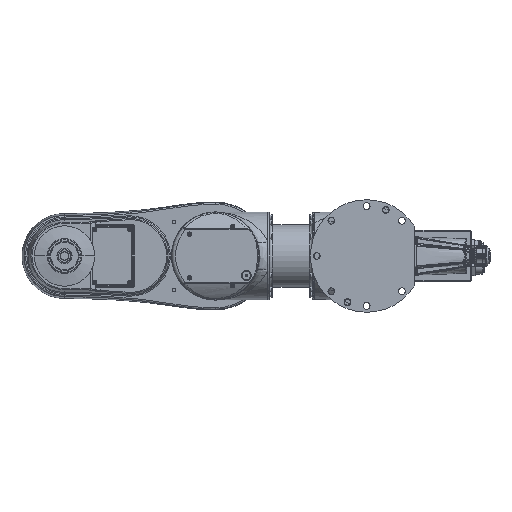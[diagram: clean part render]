
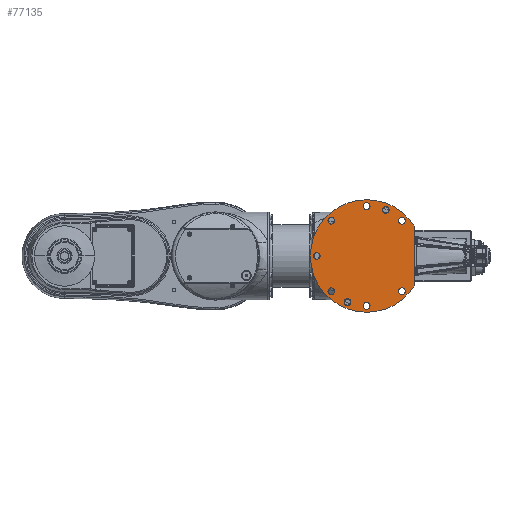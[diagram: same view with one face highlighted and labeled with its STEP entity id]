
A CAD part, front view. The second image highlights one B-rep face of the part: STEP entity #77135.
In plain terms, the highlighted planar face has unit normal (0, -1, 0).
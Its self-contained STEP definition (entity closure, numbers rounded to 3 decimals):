
#29945=DIRECTION('',(0.,0.,-1.));
#29946=VECTOR('',#29945,76.269);
#29947=CARTESIAN_POINT('',(64.,-57.5,38.135));
#29948=LINE('',#29947,#29946);
#29949=CARTESIAN_POINT('',(0.,-57.5,0.));
#29950=DIRECTION('',(0.,1.,0.));
#29951=DIRECTION('',(0.859,0.,-0.512));
#29952=AXIS2_PLACEMENT_3D('',#29949,#29950,#29951);
#29954=CARTESIAN_POINT('',(0.,-57.5,0.));
#29955=DIRECTION('',(0.,1.,0.));
#29956=DIRECTION('',(-1.,0.,0.));
#29957=AXIS2_PLACEMENT_3D('',#29954,#29955,#29956);
#29959=CARTESIAN_POINT('',(-25.257,-57.5,-60.976));
#29960=DIRECTION('',(0.,-1.,0.));
#29961=DIRECTION('',(-1.,0.,0.));
#29962=AXIS2_PLACEMENT_3D('',#29959,#29960,#29961);
#29964=CARTESIAN_POINT('',(-25.257,-57.5,-60.976));
#29965=DIRECTION('',(0.,-1.,0.));
#29966=DIRECTION('',(1.,0.,0.));
#29967=AXIS2_PLACEMENT_3D('',#29964,#29965,#29966);
#29969=CARTESIAN_POINT('',(25.257,-57.5,60.976));
#29970=DIRECTION('',(0.,-1.,0.));
#29971=DIRECTION('',(-1.,0.,0.));
#29972=AXIS2_PLACEMENT_3D('',#29969,#29970,#29971);
#29974=CARTESIAN_POINT('',(25.257,-57.5,60.976));
#29975=DIRECTION('',(0.,-1.,0.));
#29976=DIRECTION('',(1.,0.,0.));
#29977=AXIS2_PLACEMENT_3D('',#29974,#29975,#29976);
#29979=CARTESIAN_POINT('',(0.,-57.5,66.));
#29980=DIRECTION('',(0.,-1.,0.));
#29981=DIRECTION('',(1.,0.,0.));
#29982=AXIS2_PLACEMENT_3D('',#29979,#29980,#29981);
#29984=CARTESIAN_POINT('',(0.,-57.5,66.));
#29985=DIRECTION('',(0.,-1.,0.));
#29986=DIRECTION('',(-1.,0.,0.));
#29987=AXIS2_PLACEMENT_3D('',#29984,#29985,#29986);
#29989=CARTESIAN_POINT('',(-46.669,-57.5,46.669));
#29990=DIRECTION('',(0.,-1.,0.));
#29991=DIRECTION('',(1.,0.,0.));
#29992=AXIS2_PLACEMENT_3D('',#29989,#29990,#29991);
#29994=CARTESIAN_POINT('',(-46.669,-57.5,46.669));
#29995=DIRECTION('',(0.,-1.,0.));
#29996=DIRECTION('',(-1.,0.,0.));
#29997=AXIS2_PLACEMENT_3D('',#29994,#29995,#29996);
#29999=CARTESIAN_POINT('',(-66.,-57.5,0.));
#30000=DIRECTION('',(0.,-1.,0.));
#30001=DIRECTION('',(1.,0.,0.));
#30002=AXIS2_PLACEMENT_3D('',#29999,#30000,#30001);
#30004=CARTESIAN_POINT('',(-66.,-57.5,0.));
#30005=DIRECTION('',(0.,-1.,0.));
#30006=DIRECTION('',(-1.,0.,0.));
#30007=AXIS2_PLACEMENT_3D('',#30004,#30005,#30006);
#30009=CARTESIAN_POINT('',(46.669,-57.5,46.669));
#30010=DIRECTION('',(0.,-1.,0.));
#30011=DIRECTION('',(1.,0.,0.));
#30012=AXIS2_PLACEMENT_3D('',#30009,#30010,#30011);
#30014=CARTESIAN_POINT('',(46.669,-57.5,46.669));
#30015=DIRECTION('',(0.,-1.,0.));
#30016=DIRECTION('',(-1.,0.,0.));
#30017=AXIS2_PLACEMENT_3D('',#30014,#30015,#30016);
#30019=CARTESIAN_POINT('',(46.669,-57.5,-46.669));
#30020=DIRECTION('',(0.,-1.,0.));
#30021=DIRECTION('',(1.,0.,0.));
#30022=AXIS2_PLACEMENT_3D('',#30019,#30020,#30021);
#30024=CARTESIAN_POINT('',(46.669,-57.5,-46.669));
#30025=DIRECTION('',(0.,-1.,0.));
#30026=DIRECTION('',(-1.,0.,0.));
#30027=AXIS2_PLACEMENT_3D('',#30024,#30025,#30026);
#30029=CARTESIAN_POINT('',(-46.669,-57.5,-46.669));
#30030=DIRECTION('',(0.,-1.,0.));
#30031=DIRECTION('',(1.,0.,0.));
#30032=AXIS2_PLACEMENT_3D('',#30029,#30030,#30031);
#30034=CARTESIAN_POINT('',(-46.669,-57.5,-46.669));
#30035=DIRECTION('',(0.,-1.,0.));
#30036=DIRECTION('',(-1.,0.,0.));
#30037=AXIS2_PLACEMENT_3D('',#30034,#30035,#30036);
#30039=CARTESIAN_POINT('',(0.,-57.5,-66.));
#30040=DIRECTION('',(0.,-1.,0.));
#30041=DIRECTION('',(1.,0.,0.));
#30042=AXIS2_PLACEMENT_3D('',#30039,#30040,#30041);
#30044=CARTESIAN_POINT('',(0.,-57.5,-66.));
#30045=DIRECTION('',(0.,-1.,0.));
#30046=DIRECTION('',(-1.,0.,0.));
#30047=AXIS2_PLACEMENT_3D('',#30044,#30045,#30046);
#30460=CARTESIAN_POINT('',(64.,-57.5,-38.135));
#30461=VERTEX_POINT('',#30460);
#30462=CARTESIAN_POINT('',(64.,-57.5,38.135));
#30463=VERTEX_POINT('',#30462);
#30468=CARTESIAN_POINT('',(-74.5,-57.5,0.));
#30469=VERTEX_POINT('',#30468);
#30470=CARTESIAN_POINT('',(-29.757,-57.5,-60.976));
#30471=CARTESIAN_POINT('',(-20.757,-57.5,-60.976));
#30472=VERTEX_POINT('',#30470);
#30473=VERTEX_POINT('',#30471);
#30474=CARTESIAN_POINT('',(20.757,-57.5,60.976));
#30475=CARTESIAN_POINT('',(29.757,-57.5,60.976));
#30476=VERTEX_POINT('',#30474);
#30477=VERTEX_POINT('',#30475);
#30478=CARTESIAN_POINT('',(4.5,-57.5,66.));
#30479=CARTESIAN_POINT('',(-4.5,-57.5,66.));
#30480=VERTEX_POINT('',#30478);
#30481=VERTEX_POINT('',#30479);
#30482=CARTESIAN_POINT('',(-42.169,-57.5,46.669));
#30483=CARTESIAN_POINT('',(-51.169,-57.5,46.669));
#30484=VERTEX_POINT('',#30482);
#30485=VERTEX_POINT('',#30483);
#30486=CARTESIAN_POINT('',(-61.5,-57.5,0.));
#30487=CARTESIAN_POINT('',(-70.5,-57.5,0.));
#30488=VERTEX_POINT('',#30486);
#30489=VERTEX_POINT('',#30487);
#30490=CARTESIAN_POINT('',(51.169,-57.5,46.669));
#30491=CARTESIAN_POINT('',(42.169,-57.5,46.669));
#30492=VERTEX_POINT('',#30490);
#30493=VERTEX_POINT('',#30491);
#30494=CARTESIAN_POINT('',(51.169,-57.5,-46.669));
#30495=CARTESIAN_POINT('',(42.169,-57.5,-46.669));
#30496=VERTEX_POINT('',#30494);
#30497=VERTEX_POINT('',#30495);
#30498=CARTESIAN_POINT('',(-42.169,-57.5,-46.669));
#30499=CARTESIAN_POINT('',(-51.169,-57.5,-46.669));
#30500=VERTEX_POINT('',#30498);
#30501=VERTEX_POINT('',#30499);
#30502=CARTESIAN_POINT('',(4.5,-57.5,-66.));
#30503=CARTESIAN_POINT('',(-4.5,-57.5,-66.));
#30504=VERTEX_POINT('',#30502);
#30505=VERTEX_POINT('',#30503);
#77070=CARTESIAN_POINT('',(-74.5,-57.5,0.));
#77071=DIRECTION('',(0.,-1.,0.));
#77072=DIRECTION('',(1.,0.,0.));
#77073=AXIS2_PLACEMENT_3D('',#77070,#77071,#77072);
#77074=PLANE('',#77073);
#77075=ORIENTED_EDGE('',*,*,#36359,.T.);
#77076=ORIENTED_EDGE('',*,*,#77061,.T.);
#77078=ORIENTED_EDGE('',*,*,#77077,.T.);
#77079=EDGE_LOOP('',(#77075,#77076,#77078));
#77080=FACE_OUTER_BOUND('',#77079,.F.);
#77082=ORIENTED_EDGE('',*,*,#77081,.T.);
#77084=ORIENTED_EDGE('',*,*,#77083,.T.);
#77085=EDGE_LOOP('',(#77082,#77084));
#77086=FACE_BOUND('',#77085,.F.);
#77088=ORIENTED_EDGE('',*,*,#77087,.T.);
#77090=ORIENTED_EDGE('',*,*,#77089,.T.);
#77091=EDGE_LOOP('',(#77088,#77090));
#77092=FACE_BOUND('',#77091,.F.);
#77094=ORIENTED_EDGE('',*,*,#77093,.T.);
#77096=ORIENTED_EDGE('',*,*,#77095,.T.);
#77097=EDGE_LOOP('',(#77094,#77096));
#77098=FACE_BOUND('',#77097,.F.);
#77100=ORIENTED_EDGE('',*,*,#77099,.T.);
#77102=ORIENTED_EDGE('',*,*,#77101,.T.);
#77103=EDGE_LOOP('',(#77100,#77102));
#77104=FACE_BOUND('',#77103,.F.);
#77106=ORIENTED_EDGE('',*,*,#77105,.T.);
#77108=ORIENTED_EDGE('',*,*,#77107,.T.);
#77109=EDGE_LOOP('',(#77106,#77108));
#77110=FACE_BOUND('',#77109,.F.);
#77112=ORIENTED_EDGE('',*,*,#77111,.T.);
#77114=ORIENTED_EDGE('',*,*,#77113,.T.);
#77115=EDGE_LOOP('',(#77112,#77114));
#77116=FACE_BOUND('',#77115,.F.);
#77118=ORIENTED_EDGE('',*,*,#77117,.T.);
#77120=ORIENTED_EDGE('',*,*,#77119,.T.);
#77121=EDGE_LOOP('',(#77118,#77120));
#77122=FACE_BOUND('',#77121,.F.);
#77124=ORIENTED_EDGE('',*,*,#77123,.T.);
#77126=ORIENTED_EDGE('',*,*,#77125,.T.);
#77127=EDGE_LOOP('',(#77124,#77126));
#77128=FACE_BOUND('',#77127,.F.);
#77130=ORIENTED_EDGE('',*,*,#77129,.T.);
#77132=ORIENTED_EDGE('',*,*,#77131,.T.);
#77133=EDGE_LOOP('',(#77130,#77132));
#77134=FACE_BOUND('',#77133,.F.);
#77135=ADVANCED_FACE('',(#77080,#77086,#77092,#77098,#77104,#77110,#77116,
#77122,#77128,#77134),#77074,.T.);
#29953=CIRCLE('',#29952,74.5);
#29958=CIRCLE('',#29957,74.5);
#29963=CIRCLE('',#29962,4.5);
#29968=CIRCLE('',#29967,4.5);
#29973=CIRCLE('',#29972,4.5);
#29978=CIRCLE('',#29977,4.5);
#29983=CIRCLE('',#29982,4.5);
#29988=CIRCLE('',#29987,4.5);
#29993=CIRCLE('',#29992,4.5);
#29998=CIRCLE('',#29997,4.5);
#30003=CIRCLE('',#30002,4.5);
#30008=CIRCLE('',#30007,4.5);
#30013=CIRCLE('',#30012,4.5);
#30018=CIRCLE('',#30017,4.5);
#30023=CIRCLE('',#30022,4.5);
#30028=CIRCLE('',#30027,4.5);
#30033=CIRCLE('',#30032,4.5);
#30038=CIRCLE('',#30037,4.5);
#30043=CIRCLE('',#30042,4.5);
#30048=CIRCLE('',#30047,4.5);
#36359=EDGE_CURVE('',#30463,#30461,#29948,.T.);
#77061=EDGE_CURVE('',#30461,#30469,#29953,.T.);
#77077=EDGE_CURVE('',#30469,#30463,#29958,.T.);
#77081=EDGE_CURVE('',#30472,#30473,#29963,.T.);
#77083=EDGE_CURVE('',#30473,#30472,#29968,.T.);
#77087=EDGE_CURVE('',#30476,#30477,#29973,.T.);
#77089=EDGE_CURVE('',#30477,#30476,#29978,.T.);
#77093=EDGE_CURVE('',#30480,#30481,#29983,.T.);
#77095=EDGE_CURVE('',#30481,#30480,#29988,.T.);
#77099=EDGE_CURVE('',#30484,#30485,#29993,.T.);
#77101=EDGE_CURVE('',#30485,#30484,#29998,.T.);
#77105=EDGE_CURVE('',#30488,#30489,#30003,.T.);
#77107=EDGE_CURVE('',#30489,#30488,#30008,.T.);
#77111=EDGE_CURVE('',#30492,#30493,#30013,.T.);
#77113=EDGE_CURVE('',#30493,#30492,#30018,.T.);
#77117=EDGE_CURVE('',#30496,#30497,#30023,.T.);
#77119=EDGE_CURVE('',#30497,#30496,#30028,.T.);
#77123=EDGE_CURVE('',#30500,#30501,#30033,.T.);
#77125=EDGE_CURVE('',#30501,#30500,#30038,.T.);
#77129=EDGE_CURVE('',#30504,#30505,#30043,.T.);
#77131=EDGE_CURVE('',#30505,#30504,#30048,.T.);
